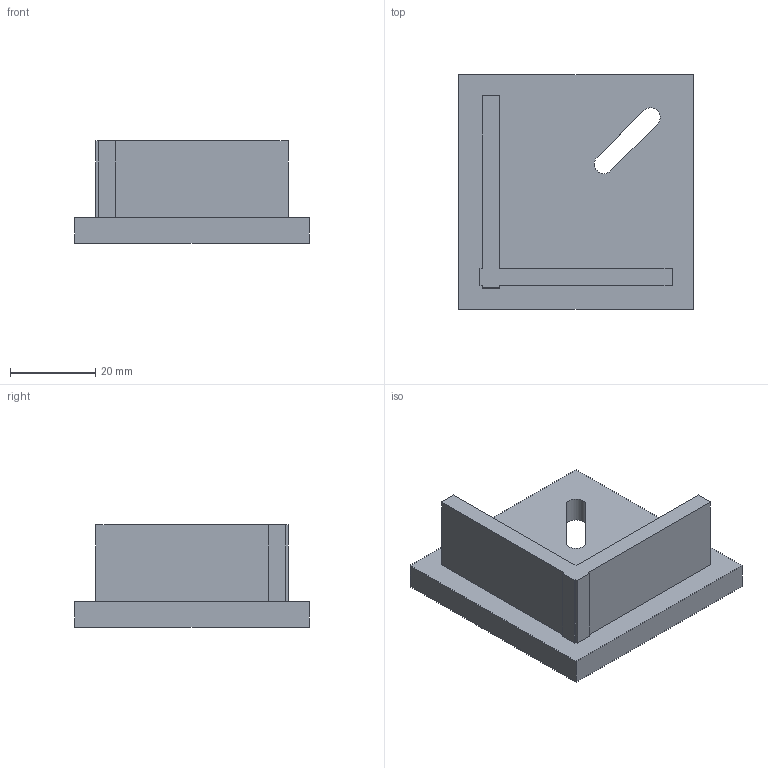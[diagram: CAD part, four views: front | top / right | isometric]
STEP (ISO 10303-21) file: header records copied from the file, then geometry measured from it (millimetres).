
FILE_DESCRIPTION(('Open CASCADE Model'),'2;1');
FILE_NAME('Open CASCADE Shape Model','2026-10-21T16:54:04',('Author'),( 'Open CASCADE'),'Open CASCADE STEP processor 7.9','Open CASCADE 7.9' ,'Unknown');
FILE_SCHEMA(('AUTOMOTIVE_DESIGN { 1 0 10303 214 1 1 1 1 }'));
Length unit declared in the file: millimetre
Products named in the file (1): Open CASCADE STEP translator 7.9 70
Bounding box: 55 x 55 x 24 mm (x, y, z)
Volume: 23566.6 mm3; surface area: 10812.1 mm2
Topology: 1 solids, 1 shells, 25 faces, 63 edges, 42 vertices
Faces by surface type: plane 22, cylinder 3
Full cylindrical faces by diameter (mm): 10.2 x1
Entity records: 1591 total; most frequent: CARTESIAN_POINT 287, DIRECTION 242, LINE 177, VECTOR 177, ORIENTED_EDGE 126, PCURVE 126, DEFINITIONAL_REPRESENTATION 126, EDGE_CURVE 63
